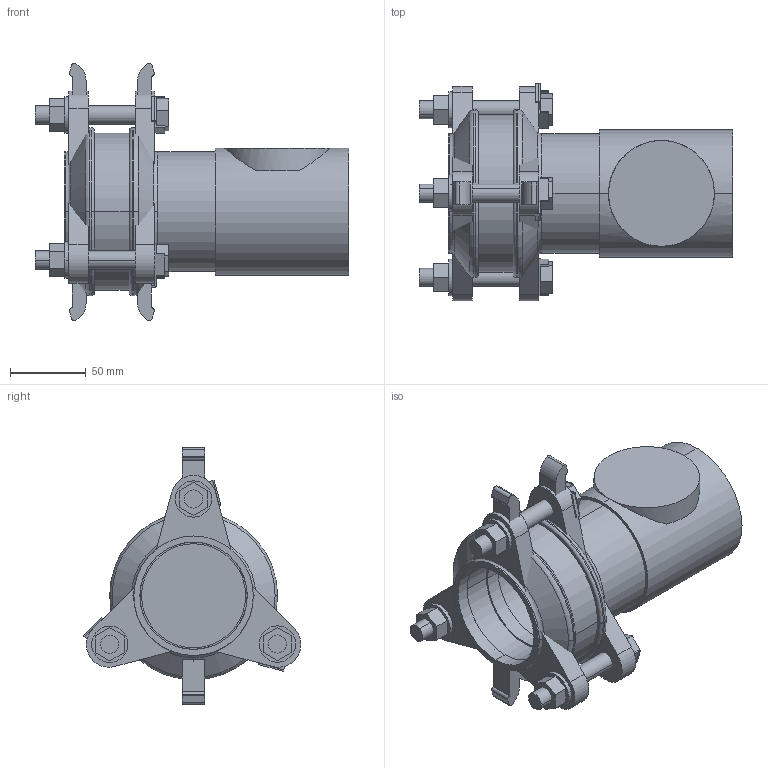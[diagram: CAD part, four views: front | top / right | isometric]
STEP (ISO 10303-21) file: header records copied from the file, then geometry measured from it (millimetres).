
FILE_DESCRIPTION(('STEP AP214'),'1');
FILE_NAME('HDA00030 DN 50.STP','2015-02-06T09:50:23',(' '),(' '),'Spatial InterOp 3D',' ',' ');
FILE_SCHEMA(('automotive_design'));
Length unit declared in the file: millimetre
Products named in the file (34): 3D-Objekt
Bounding box: 207 x 143.81 x 170 mm (x, y, z)
Volume: 656191.1 mm3; surface area: 226172 mm2
Topology: 34 solids, 34 shells, 275 faces, 612 edges, 406 vertices
Faces by surface type: plane 182, cylinder 73, torus 12, cone 8
Entity records: 10826 total; most frequent: CARTESIAN_POINT 1523, DIRECTION 1422, ORIENTED_EDGE 1224, EDGE_CURVE 612, AXIS2_PLACEMENT_3D 505, LINE 412, VECTOR 412, VERTEX_POINT 406
